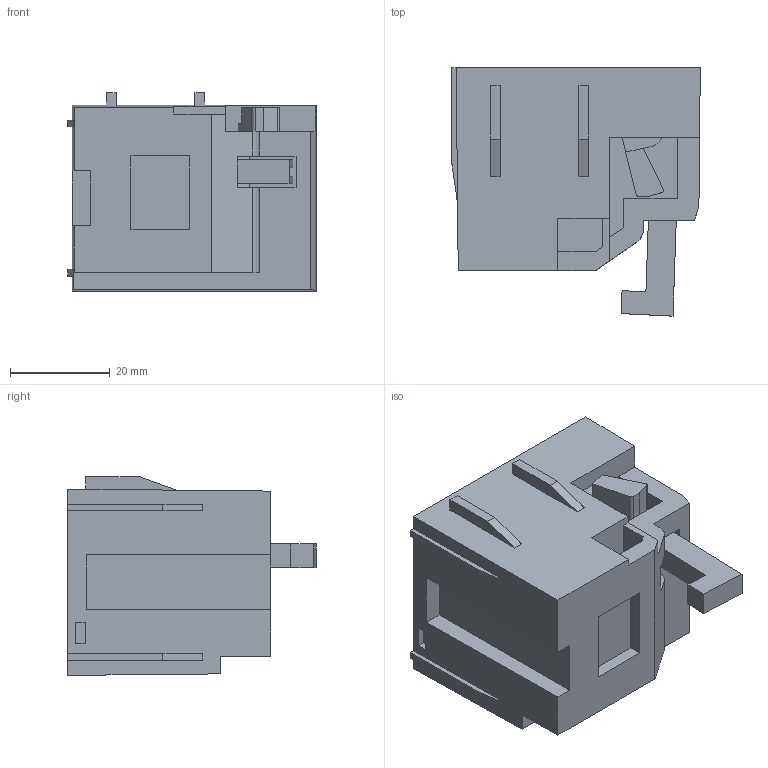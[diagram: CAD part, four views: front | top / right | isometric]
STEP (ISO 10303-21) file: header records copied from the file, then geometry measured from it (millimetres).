
FILE_DESCRIPTION(/* description */ (''),/* implementation_level */ '2;1');
FILE_NAME(/* name */ '2023.11.10.stp',/* time_stamp */ '2023-11-10T14:10:09+08:00',/* author */ (''),/* organization */ (''),/* preprocessor_version */ 'ST-DEVELOPER v16',/* originating_system */ 'SIEMENS PLM Software NX 10.0',/* authorisation */ '');
FILE_SCHEMA (('AUTOMOTIVE_DESIGN { 1 0 10303 214 3 1 1 1 }'));
Length unit declared in the file: millimetre
Products named in the file (1): midi08580DE3vsbi
Bounding box: 49.9 x 49.84 x 39.9 mm (x, y, z)
Volume: 62551.6 mm3; surface area: 12328.8 mm2
Topology: 1 solids, 1 shells, 100 faces, 272 edges, 181 vertices
Faces by surface type: plane 95, cylinder 5
Entity records: 3130 total; most frequent: CARTESIAN_POINT 554, ORIENTED_EDGE 544, DIRECTION 484, EDGE_CURVE 272, LINE 262, VECTOR 262, VERTEX_POINT 181, AXIS2_PLACEMENT_3D 111
